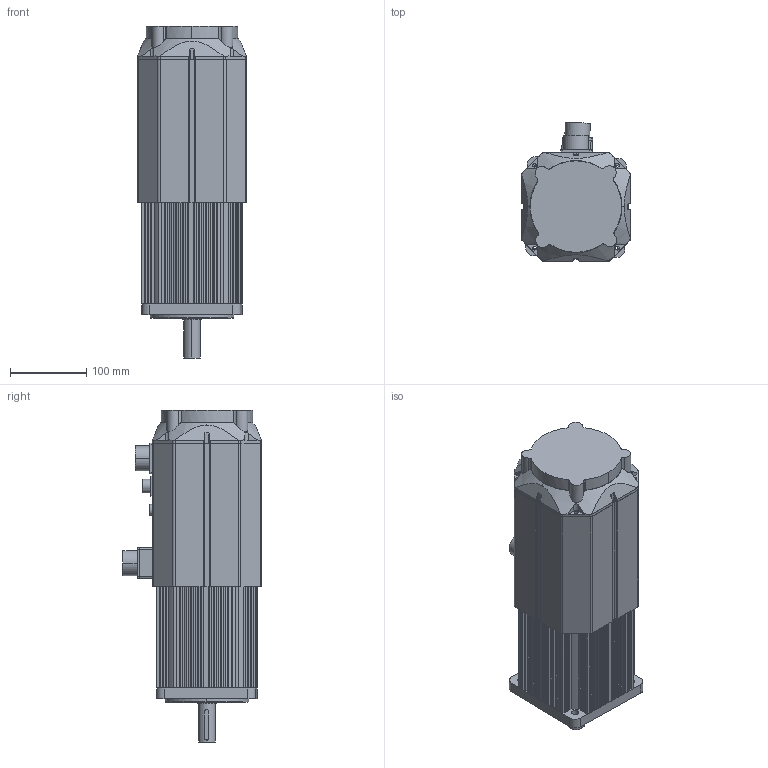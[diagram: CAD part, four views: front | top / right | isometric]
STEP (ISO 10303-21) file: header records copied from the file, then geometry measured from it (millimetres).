
FILE_DESCRIPTION (( 'STEP AP203' ), '1' );
FILE_NAME ('130ST-M15010-Z - ¸±±¾.STEP', '2024-05-23T13:47:45', ( '' ), ( '' ), 'SwSTEP 2.0', 'SolidWorks 2018', '' );
FILE_SCHEMA (( 'CONFIG_CONTROL_DESIGN' ));
Length unit declared in the file: millimetre
Products named in the file (15): XS12-3P埴釱; 蚐猾; 惕掅儂褲; 130ヶ傷裔; 130綴傷裔; YD28J15Z; 15N.M1000RPM儂褲 - 萵掛; 130瑞圮; YD28J4Z ; 16蛌粣ㄗ敕諳瑩ㄘ; 130ST-M15010-Z  - 萵掛; YD16J4Z(瑞圮脣芛); 130陬諾綴傷裔 ; 130A諉盄釱-1; 130瑞圮儂褲-17N.M
Assembly tree (14 placements, depth 2):
  130ST-M15010-Z  - 萵掛
    130綴傷裔
    130ヶ傷裔
    蚐猾
    130A諉盄釱-1
    YD28J4Z 
    130陬諾綴傷裔 
    XS12-3P埴釱
    惕掅儂褲
    16蛌粣ㄗ敕諳瑩ㄘ
    YD28J15Z
    130瑞圮
    130瑞圮儂褲-17N.M
    YD16J4Z(瑞圮脣芛)
    15N.M1000RPM儂褲 - 萵掛
Bounding box: 143.07 x 182.14 x 436 mm (x, y, z)
Volume: 1965069.2 mm3; surface area: 791912.2 mm2
Topology: 14 solids, 14 shells, 1510 faces, 4291 edges, 2815 vertices
Faces by surface type: plane 860, cylinder 568, sphere 52, torus 18, cone 12
Entity records: 51271 total; most frequent: CARTESIAN_POINT 9870, ORIENTED_EDGE 8370, DIRECTION 8317, EDGE_CURVE 4185, VECTOR 2821, LINE 2821, VERTEX_POINT 2763, AXIS2_PLACEMENT_3D 2748
